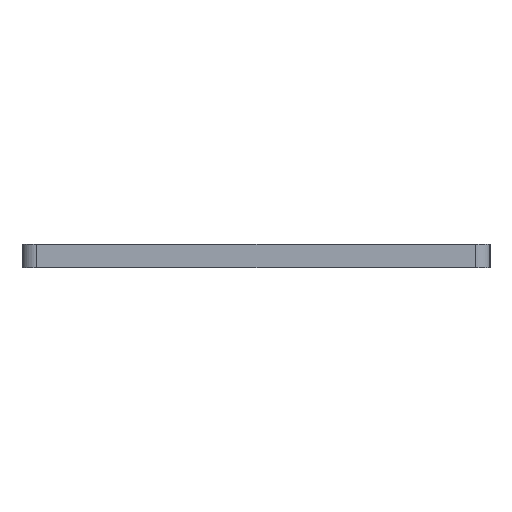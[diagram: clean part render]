
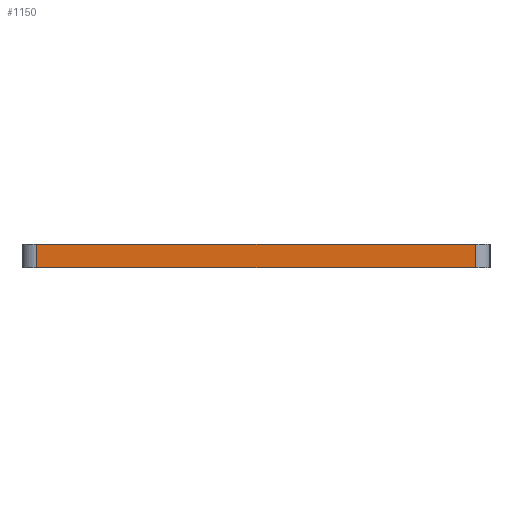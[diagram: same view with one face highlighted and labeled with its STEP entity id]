
A CAD part, left-side view. The second image highlights one B-rep face of the part: STEP entity #1150.
In plain terms, the highlighted planar face has unit normal (-1, 0, 0).
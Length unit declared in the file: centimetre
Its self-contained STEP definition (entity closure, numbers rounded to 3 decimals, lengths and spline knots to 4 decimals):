
#119=PLANE('',#1289);
#134=VECTOR('',#1405,1.);
#159=VECTOR('',#1513,1.);
#160=VECTOR('',#1548,1.);
#165=VECTOR('',#1558,1.);
#198=LINE('',#1722,#134);
#223=LINE('',#1847,#159);
#224=LINE('',#1873,#160);
#229=LINE('',#1881,#165);
#286=VERTEX_POINT('',#1720);
#288=VERTEX_POINT('',#1723);
#339=VERTEX_POINT('',#1834);
#345=VERTEX_POINT('',#1846);
#487=EDGE_CURVE('',#288,#286,#198,.T.);
#549=EDGE_CURVE('',#339,#345,#223,.T.);
#558=EDGE_CURVE('',#339,#286,#224,.T.);
#563=EDGE_CURVE('',#288,#345,#229,.T.);
#870=ORIENTED_EDGE('',*,*,#558,.F.);
#871=ORIENTED_EDGE('',*,*,#549,.T.);
#872=ORIENTED_EDGE('',*,*,#563,.F.);
#873=ORIENTED_EDGE('',*,*,#487,.T.);
#983=EDGE_LOOP('',(#870,#871,#872,#873));
#1093=FACE_BOUND('',#983,.T.);
#1150=ADVANCED_FACE('',(#1093),#119,.T.);
#1289=AXIS2_PLACEMENT_3D('',#1924,#1615,$);
#1405=DIRECTION('',(0.,-1.,0.));
#1513=DIRECTION('',(0.,1.,0.));
#1548=DIRECTION('',(0.,0.,-1.));
#1558=DIRECTION('',(0.,0.,1.));
#1615=DIRECTION('',(-1.,0.,0.));
#1720=CARTESIAN_POINT('',(-18.5,-7.5,0.));
#1722=CARTESIAN_POINT('',(-18.5,8.,0.));
#1723=CARTESIAN_POINT('',(-18.5,7.5,0.));
#1834=CARTESIAN_POINT('',(-18.5,-7.5,0.8));
#1846=CARTESIAN_POINT('',(-18.5,7.5,0.8));
#1847=CARTESIAN_POINT('',(-18.5,8.,0.8));
#1873=CARTESIAN_POINT('',(-18.5,-7.5,0.));
#1881=CARTESIAN_POINT('',(-18.5,7.5,0.));
#1924=CARTESIAN_POINT('',(-18.5,0.,0.));
